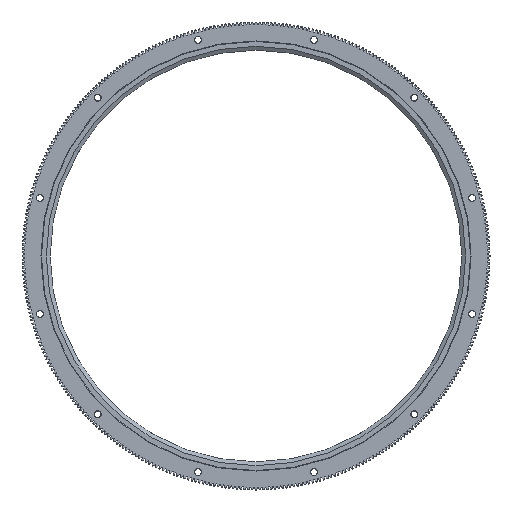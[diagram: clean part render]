
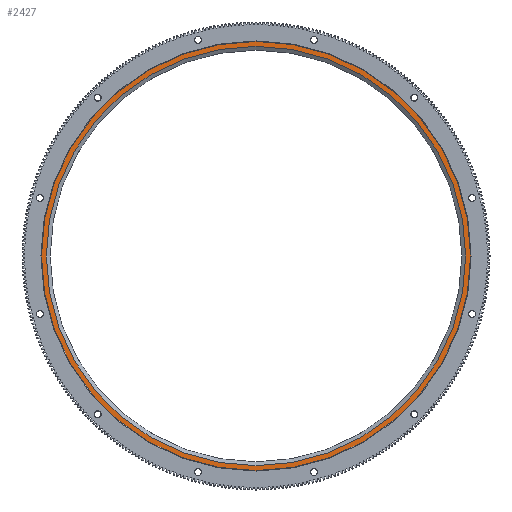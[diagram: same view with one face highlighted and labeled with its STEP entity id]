
A CAD part, front view. The second image highlights one B-rep face of the part: STEP entity #2427.
In plain terms, the highlighted planar face has unit normal (0, -1, 0).
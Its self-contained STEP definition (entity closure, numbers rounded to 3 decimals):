
#2427 = ADVANCED_FACE( '', ( #7206, #7207 ), #7208, .T. );
#7206 = FACE_OUTER_BOUND( '', #12012, .T. );
#7207 = FACE_BOUND( '', #12013, .T. );
#7208 = PLANE( '', #12014 );
#12012 = EDGE_LOOP( '', ( #31109 ) );
#12013 = EDGE_LOOP( '', ( #31110 ) );
#12014 = AXIS2_PLACEMENT_3D( '', #31111, #31112, #31113 );
#31109 = ORIENTED_EDGE( '', *, *, #40068, .T. );
#31110 = ORIENTED_EDGE( '', *, *, #40067, .F. );
#31111 = CARTESIAN_POINT( '', ( 216.164, 9.5, 0. ) );
#31112 = DIRECTION( '', ( 0., -1., 0. ) );
#31113 = DIRECTION( '', ( 0., 0., -1. ) );
#40067 = EDGE_CURVE( '', #51717, #51717, #51718, .T. );
#40068 = EDGE_CURVE( '', #51719, #51719, #51720, .T. );
#51717 = VERTEX_POINT( '', #70665 );
#51718 = CIRCLE( '', #70666, 216.164 );
#51719 = VERTEX_POINT( '', #70667 );
#51720 = CIRCLE( '', #70668, 221.85 );
#70665 = CARTESIAN_POINT( '', ( 0., 9.5, -216.164 ) );
#70666 = AXIS2_PLACEMENT_3D( '', #79322, #79323, #79324 );
#70667 = CARTESIAN_POINT( '', ( 0., 9.5, -221.85 ) );
#70668 = AXIS2_PLACEMENT_3D( '', #79325, #79326, #79327 );
#79322 = CARTESIAN_POINT( '', ( 0., 9.5, 0. ) );
#79323 = DIRECTION( '', ( 0., -1., 0. ) );
#79324 = DIRECTION( '', ( 0., 0., -1. ) );
#79325 = CARTESIAN_POINT( '', ( 0., 9.5, 0. ) );
#79326 = DIRECTION( '', ( 0., -1., 0. ) );
#79327 = DIRECTION( '', ( 0., 0., -1. ) );
